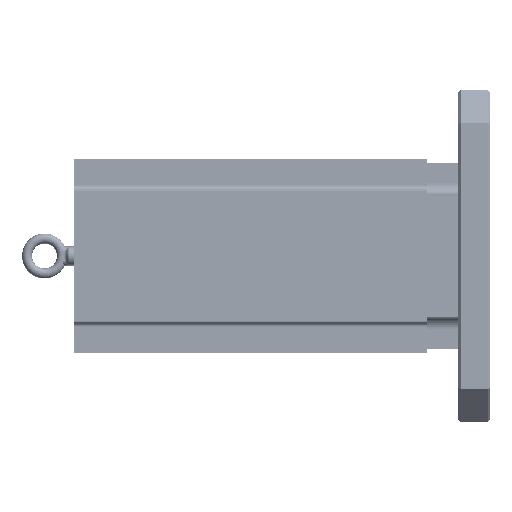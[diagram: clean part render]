
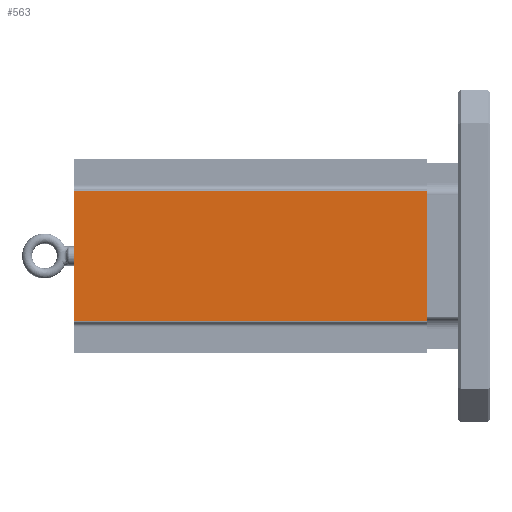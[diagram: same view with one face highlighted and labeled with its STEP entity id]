
A CAD part, left-side view. The second image highlights one B-rep face of the part: STEP entity #563.
In plain terms, the highlighted planar face has unit normal (-1, 0, 0).
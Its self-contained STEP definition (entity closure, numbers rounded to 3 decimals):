
#563 = ADVANCED_FACE ( 'NONE', ( #15627 ), #5403, .F. ) ;
#1737 = CARTESIAN_POINT ( 'NONE',  ( -116.992, 38.1, -78.511 ) ) ;
#2803 = EDGE_CURVE ( 'NONE', #26351, #5498, #20824, .T. ) ;
#3167 = CARTESIAN_POINT ( 'NONE',  ( -116.992, 462., -79.273 ) ) ;
#4689 = LINE ( 'NONE', #5183, #17437 ) ;
#5183 = CARTESIAN_POINT ( 'NONE',  ( -116.992, 462., 78.511 ) ) ;
#5227 = DIRECTION ( 'NONE',  ( 1., 0., 0. ) ) ;
#5403 = PLANE ( 'NONE',  #11588 ) ;
#5498 = VERTEX_POINT ( 'NONE', #1737 ) ;
#5985 = LINE ( 'NONE', #16389, #27293 ) ;
#6241 = CARTESIAN_POINT ( 'NONE',  ( -116.992, 462., -78.511 ) ) ;
#8096 = ORIENTED_EDGE ( 'NONE', *, *, #2803, .T. ) ;
#8429 = CARTESIAN_POINT ( 'NONE',  ( -116.992, 462., 78.511 ) ) ;
#8762 = LINE ( 'NONE', #11828, #22479 ) ;
#11152 = DIRECTION ( 'NONE',  ( 0., 0., -1. ) ) ;
#11588 = AXIS2_PLACEMENT_3D ( 'NONE', #3167, #5227, #13571 ) ;
#11828 = CARTESIAN_POINT ( 'NONE',  ( -116.992, 38.1, -79.273 ) ) ;
#13017 = DIRECTION ( 'NONE',  ( 0., 1., 0. ) ) ;
#13571 = DIRECTION ( 'NONE',  ( 0., 0., -1. ) ) ;
#13874 = ORIENTED_EDGE ( 'NONE', *, *, #16397, .T. ) ;
#15627 = FACE_OUTER_BOUND ( 'NONE', #32369, .T. ) ;
#16389 = CARTESIAN_POINT ( 'NONE',  ( -116.992, 462., -79.273 ) ) ;
#16390 = VECTOR ( 'NONE', #24338, 1000. ) ;
#16397 = EDGE_CURVE ( 'NONE', #31394, #33592, #4689, .T. ) ;
#16747 = CARTESIAN_POINT ( 'NONE',  ( -116.992, 462., -78.511 ) ) ;
#17437 = VECTOR ( 'NONE', #13017, 1000. ) ;
#20824 = LINE ( 'NONE', #6241, #16390 ) ;
#21944 = ORIENTED_EDGE ( 'NONE', *, *, #31335, .F. ) ;
#22479 = VECTOR ( 'NONE', #11152, 1000. ) ;
#24338 = DIRECTION ( 'NONE',  ( 0., -1., 0. ) ) ;
#24417 = DIRECTION ( 'NONE',  ( 0., 0., 1. ) ) ;
#26351 = VERTEX_POINT ( 'NONE', #16747 ) ;
#27293 = VECTOR ( 'NONE', #24417, 1000. ) ;
#29220 = ORIENTED_EDGE ( 'NONE', *, *, #33577, .F. ) ;
#30082 = CARTESIAN_POINT ( 'NONE',  ( -116.992, 38.1, 78.511 ) ) ;
#31335 = EDGE_CURVE ( 'NONE', #26351, #33592, #5985, .T. ) ;
#31394 = VERTEX_POINT ( 'NONE', #30082 ) ;
#32369 = EDGE_LOOP ( 'NONE', ( #29220, #13874, #21944, #8096 ) ) ;
#33577 = EDGE_CURVE ( 'NONE', #31394, #5498, #8762, .T. ) ;
#33592 = VERTEX_POINT ( 'NONE', #8429 ) ;
